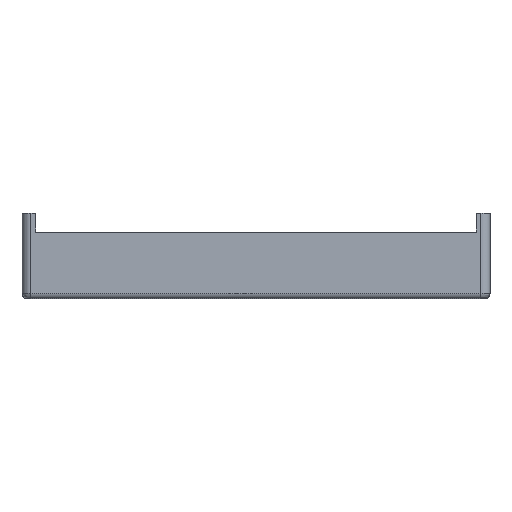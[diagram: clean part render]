
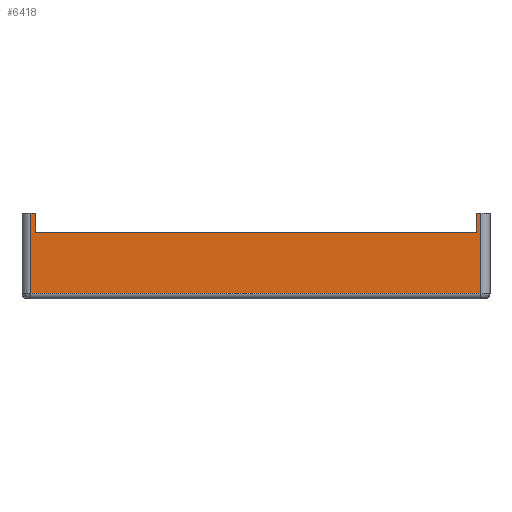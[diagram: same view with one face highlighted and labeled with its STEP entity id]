
A CAD part, front view. The second image highlights one B-rep face of the part: STEP entity #6418.
In plain terms, the highlighted planar face has unit normal (0, -1, 0).
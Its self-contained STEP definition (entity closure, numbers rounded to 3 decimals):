
#122=PLANE('',#6774);
#357=LINE('',#8961,#1097);
#362=LINE('',#8971,#1102);
#363=LINE('',#8975,#1103);
#364=LINE('',#8977,#1104);
#365=LINE('',#8979,#1105);
#366=LINE('',#8981,#1106);
#367=LINE('',#8983,#1107);
#368=LINE('',#8984,#1108);
#1097=VECTOR('',#7262,10.);
#1102=VECTOR('',#7271,10.);
#1103=VECTOR('',#7276,10.);
#1104=VECTOR('',#7277,10.);
#1105=VECTOR('',#7278,10.);
#1106=VECTOR('',#7279,10.);
#1107=VECTOR('',#7280,10.);
#1108=VECTOR('',#7281,10.);
#1906=FACE_OUTER_BOUND('',#2226,.T.);
#2226=EDGE_LOOP('',(#4303,#4304,#4305,#4306,#4307,#4308,#4309,#4310));
#2746=VERTEX_POINT('',#8892);
#2761=VERTEX_POINT('',#8956);
#2764=VERTEX_POINT('',#8970);
#2765=VERTEX_POINT('',#8974);
#2766=VERTEX_POINT('',#8976);
#2767=VERTEX_POINT('',#8978);
#2768=VERTEX_POINT('',#8980);
#2769=VERTEX_POINT('',#8982);
#3375=EDGE_CURVE('',#2746,#2761,#357,.T.);
#3380=EDGE_CURVE('',#2761,#2764,#362,.T.);
#3382=EDGE_CURVE('',#2765,#2746,#363,.T.);
#3383=EDGE_CURVE('',#2765,#2766,#364,.T.);
#3384=EDGE_CURVE('',#2766,#2767,#365,.T.);
#3385=EDGE_CURVE('',#2767,#2768,#366,.T.);
#3386=EDGE_CURVE('',#2768,#2769,#367,.T.);
#3387=EDGE_CURVE('',#2769,#2764,#368,.T.);
#4303=ORIENTED_EDGE('',*,*,#3375,.F.);
#4304=ORIENTED_EDGE('',*,*,#3382,.F.);
#4305=ORIENTED_EDGE('',*,*,#3383,.T.);
#4306=ORIENTED_EDGE('',*,*,#3384,.T.);
#4307=ORIENTED_EDGE('',*,*,#3385,.T.);
#4308=ORIENTED_EDGE('',*,*,#3386,.T.);
#4309=ORIENTED_EDGE('',*,*,#3387,.T.);
#4310=ORIENTED_EDGE('',*,*,#3380,.F.);
#6418=ADVANCED_FACE('',(#1906),#122,.T.);
#6774=AXIS2_PLACEMENT_3D('',#8973,#7274,#7275);
#7262=DIRECTION('',(-1.,0.,0.));
#7271=DIRECTION('',(0.,0.,1.));
#7274=DIRECTION('center_axis',(0.,-1.,0.));
#7275=DIRECTION('ref_axis',(0.,0.,-1.));
#7276=DIRECTION('',(0.,0.,-1.));
#7277=DIRECTION('',(-1.,0.,0.));
#7278=DIRECTION('',(0.,0.,-1.));
#7279=DIRECTION('',(-1.,0.,0.));
#7280=DIRECTION('',(0.,0.,1.));
#7281=DIRECTION('',(-1.,0.,0.));
#8892=CARTESIAN_POINT('',(14.07,-23.231,0.6));
#8956=CARTESIAN_POINT('',(-35.93,-23.231,0.6));
#8961=CARTESIAN_POINT('',(-10.93,-23.231,0.6));
#8970=CARTESIAN_POINT('',(-35.93,-23.231,9.5));
#8971=CARTESIAN_POINT('',(-35.93,-23.231,2.375));
#8973=CARTESIAN_POINT('Origin',(-10.93,-23.231,4.75));
#8974=CARTESIAN_POINT('',(14.07,-23.231,9.5));
#8975=CARTESIAN_POINT('',(14.07,-23.231,2.375));
#8976=CARTESIAN_POINT('',(13.57,-23.231,9.5));
#8977=CARTESIAN_POINT('',(15.07,-23.231,9.5));
#8978=CARTESIAN_POINT('',(13.57,-23.231,7.4));
#8979=CARTESIAN_POINT('',(13.57,-23.231,9.5));
#8980=CARTESIAN_POINT('',(-35.43,-23.231,7.4));
#8981=CARTESIAN_POINT('',(13.57,-23.231,7.4));
#8982=CARTESIAN_POINT('',(-35.43,-23.231,9.5));
#8983=CARTESIAN_POINT('',(-35.43,-23.231,7.4));
#8984=CARTESIAN_POINT('',(-35.43,-23.231,9.5));
